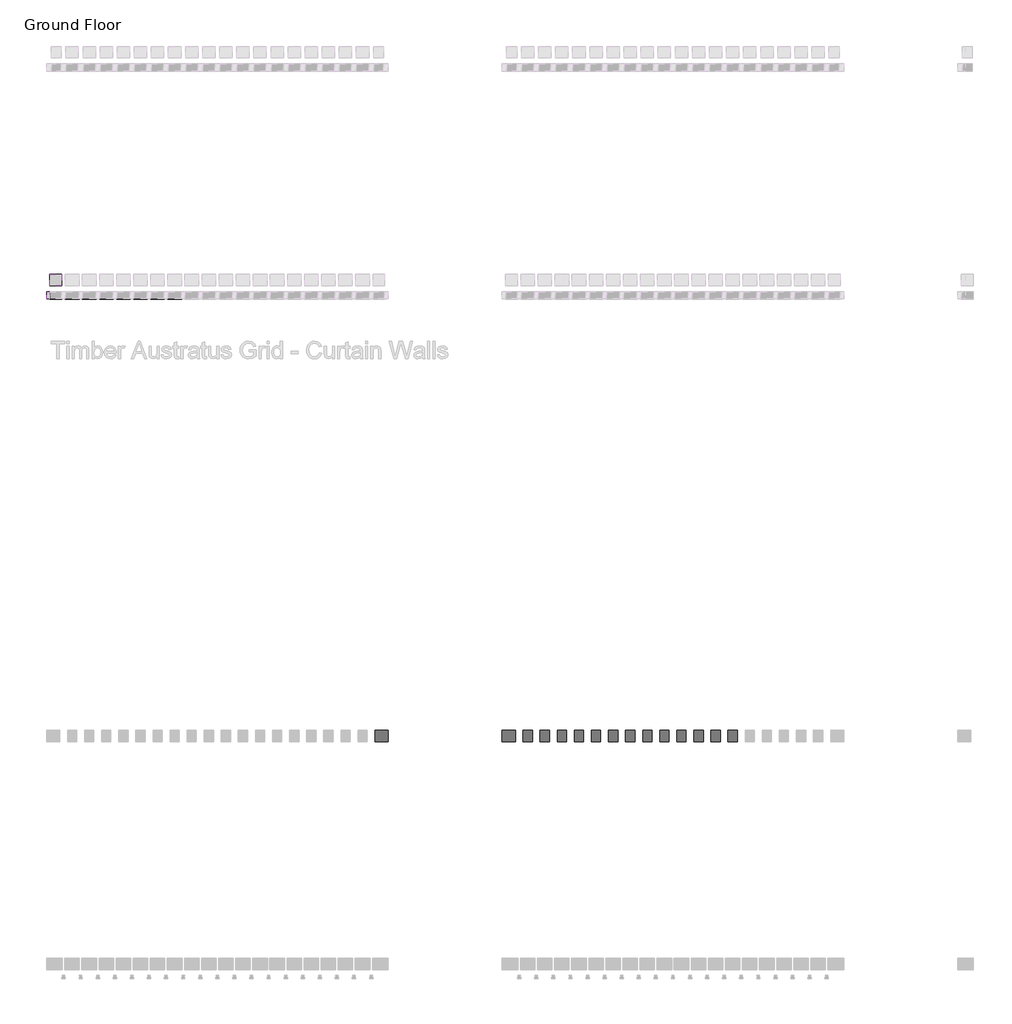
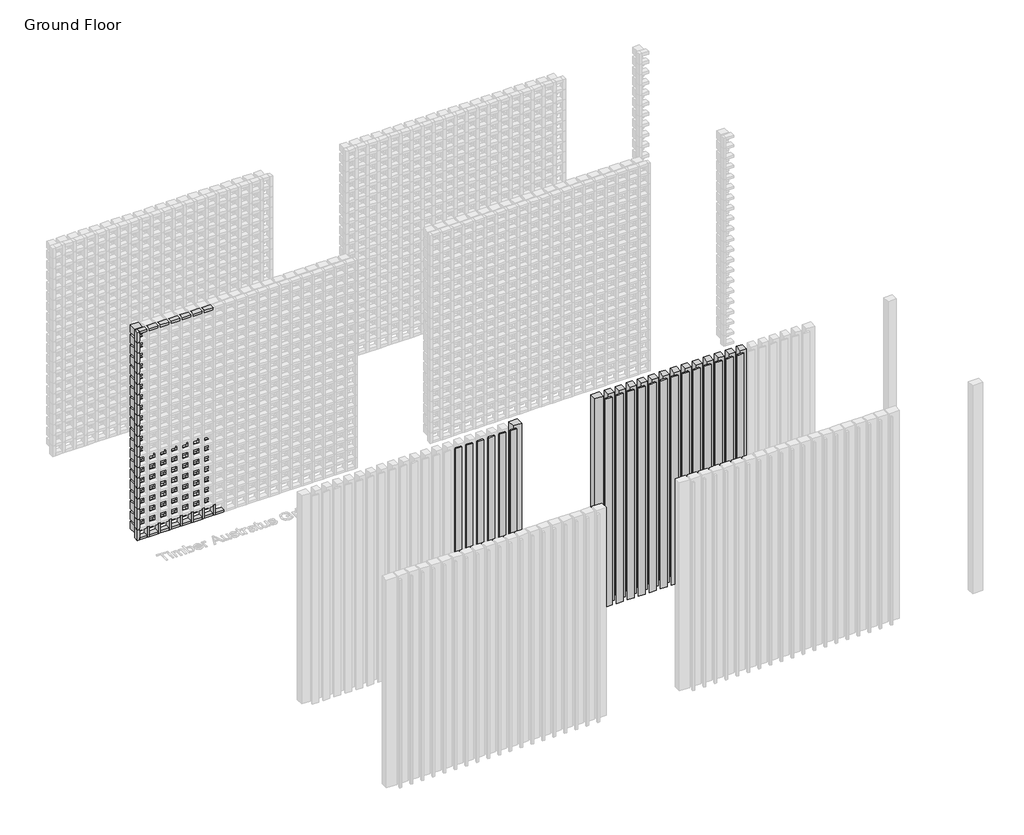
# One storey, part 46 of 350: 77 plates, 61 members.
"""IFC4 building model written with IfcOpenShell, lengths in millimetres."""

from ifc_helpers import new_model, si_unit, origin, place, context, project, spatial, transform, mapped, element, save
from components import rectangular_mullion_d7abbbe3, rectangular_mullion_5b501421, rectangular_mullion_f2fcf417, rectangular_mullion_51467dcc, rectangular_mullion_27b03f3e, rectangular_mullion_d4c9a775, rectangular_mullion_ed01f2b6, empty_system_panel_empty_a57e421f, empty_system_panel_empty_f62c9f60, empty_system_panel_empty_ba5a9e04, empty_system_panel_empty_0065accd, empty_system_panel_empty_2f71b3a5, empty_system_panel_empty_fe50b430, empty_system_panel_empty_7a4fbe29

model = new_model("IFC4")

# Units and contexts
model_context = context("Model", 3, world=origin())
ifc_project = project(units=[si_unit("LENGTHUNIT", "METRE", prefix="MILLI")], contexts=[model_context])

# Site, building, storey
site = spatial("IfcSite", under=ifc_project)
building = spatial("IfcBuilding", under=site)
storey = spatial("IfcBuildingStorey", under=building, Name="Ground Floor", Elevation=0.0)

# Members
placement = place(None, origin())
rectangular_mullion_shape = rectangular_mullion_d7abbbe3(model_context)
element("IfcMember", 1, ObjectType="Rectangular Mullion : Batten_Aluminium_Modinex_Austratus_Linear_Flat_AfricanEbony", at=placement, inside=storey, context=model_context, shape_type="MappedRepresentation", body=[
    mapped(rectangular_mullion_shape, transform((4016.4361642, 34968.2978302, 0.0), x_axis=(1.0, 0.0, 0.0), y_axis=(0.0, -1.0, 0.0), z_axis=(0.0, 0.0, -1.0))),
])
element("IfcMember", 2, ObjectType="Rectangular Mullion : Batten_Aluminium_Modinex_Austratus_Linear_Flat_AfricanEbony", at=placement, inside=storey, context=model_context, shape_type="MappedRepresentation", body=[
    mapped(rectangular_mullion_shape, transform((4166.4361642, 34968.2978302, 0.0), x_axis=(1.0, 0.0, 0.0), y_axis=(0.0, -1.0, 0.0), z_axis=(0.0, 0.0, -1.0))),
])
element("IfcMember", 3, ObjectType="Rectangular Mullion : Batten_Aluminium_Modinex_Austratus_Linear_Flat_AfricanEbony", at=placement, inside=storey, context=model_context, shape_type="MappedRepresentation", body=[
    mapped(rectangular_mullion_shape, transform((4316.4361642, 34968.2978302, 0.0), x_axis=(1.0, 0.0, 0.0), y_axis=(0.0, -1.0, 0.0), z_axis=(0.0, 0.0, -1.0))),
])
element("IfcMember", 4, ObjectType="Rectangular Mullion : Batten_Aluminium_Modinex_Austratus_Linear_Flat_AfricanEbony", at=placement, inside=storey, context=model_context, shape_type="MappedRepresentation", body=[
    mapped(rectangular_mullion_shape, transform((4466.4361642, 34968.2978302, 0.0), x_axis=(1.0, 0.0, 0.0), y_axis=(0.0, -1.0, 0.0), z_axis=(0.0, 0.0, -1.0))),
])
element("IfcMember", 5, ObjectType="Rectangular Mullion : Batten_Aluminium_Modinex_Austratus_Linear_Flat_AfricanEbony", at=placement, inside=storey, context=model_context, shape_type="MappedRepresentation", body=[
    mapped(rectangular_mullion_shape, transform((4616.4361642, 34968.2978302, 0.0), x_axis=(1.0, 0.0, 0.0), y_axis=(0.0, -1.0, 0.0), z_axis=(0.0, 0.0, -1.0))),
])
element("IfcMember", 6, ObjectType="Rectangular Mullion : Batten_Aluminium_Modinex_Austratus_Linear_Flat_AfricanEbony", at=placement, inside=storey, context=model_context, shape_type="MappedRepresentation", body=[
    mapped(rectangular_mullion_shape, transform((4766.4361642, 34968.2978302, 0.0), x_axis=(1.0, 0.0, 0.0), y_axis=(0.0, -1.0, 0.0), z_axis=(0.0, 0.0, -1.0))),
])
element("IfcMember", 7, ObjectType="Rectangular Mullion : Batten_Aluminium_Modinex_Austratus_Linear_Flat_Cedar", at=placement, inside=storey, context=model_context, shape_type="MappedRepresentation", body=[
    mapped(rectangular_mullion_shape, transform((6066.4361642, 34968.2978302, 0.0), x_axis=(1.0, 0.0, 0.0), y_axis=(0.0, -1.0, 0.0), z_axis=(0.0, 0.0, -1.0))),
])
element("IfcMember", 8, ObjectType="Rectangular Mullion : Batten_Aluminium_Modinex_Austratus_Linear_Flat_Cedar", at=placement, inside=storey, context=model_context, shape_type="MappedRepresentation", body=[
    mapped(rectangular_mullion_shape, transform((6216.4361642, 34968.2978302, 0.0), x_axis=(1.0, 0.0, 0.0), y_axis=(0.0, -1.0, 0.0), z_axis=(0.0, 0.0, -1.0))),
])
element("IfcMember", 9, ObjectType="Rectangular Mullion : Batten_Aluminium_Modinex_Austratus_Linear_Flat_Cedar", at=placement, inside=storey, context=model_context, shape_type="MappedRepresentation", body=[
    mapped(rectangular_mullion_shape, transform((6366.4361642, 34968.2978302, 0.0), x_axis=(1.0, 0.0, 0.0), y_axis=(0.0, -1.0, 0.0), z_axis=(0.0, 0.0, -1.0))),
])
element("IfcMember", 10, ObjectType="Rectangular Mullion : Batten_Aluminium_Modinex_Austratus_Linear_Flat_Cedar", at=placement, inside=storey, context=model_context, shape_type="MappedRepresentation", body=[
    mapped(rectangular_mullion_shape, transform((6516.4361642, 34968.2978302, 0.0), x_axis=(1.0, 0.0, 0.0), y_axis=(0.0, -1.0, 0.0), z_axis=(0.0, 0.0, -1.0))),
])
element("IfcMember", 11, ObjectType="Rectangular Mullion : Batten_Aluminium_Modinex_Austratus_Linear_Flat_Cedar", at=placement, inside=storey, context=model_context, shape_type="MappedRepresentation", body=[
    mapped(rectangular_mullion_shape, transform((6666.4361642, 34968.2978302, 0.0), x_axis=(1.0, 0.0, 0.0), y_axis=(0.0, -1.0, 0.0), z_axis=(0.0, 0.0, -1.0))),
])
element("IfcMember", 12, ObjectType="Rectangular Mullion : Batten_Aluminium_Modinex_Austratus_Linear_Flat_Cedar", at=placement, inside=storey, context=model_context, shape_type="MappedRepresentation", body=[
    mapped(rectangular_mullion_shape, transform((6816.4361642, 34968.2978302, 0.0), x_axis=(1.0, 0.0, 0.0), y_axis=(0.0, -1.0, 0.0), z_axis=(0.0, 0.0, -1.0))),
])
element("IfcMember", 13, ObjectType="Rectangular Mullion : Batten_Aluminium_Modinex_Austratus_Linear_Flat_Cedar", at=placement, inside=storey, context=model_context, shape_type="MappedRepresentation", body=[
    mapped(rectangular_mullion_shape, transform((6966.4361642, 34968.2978302, 0.0), x_axis=(1.0, 0.0, 0.0), y_axis=(0.0, -1.0, 0.0), z_axis=(0.0, 0.0, -1.0))),
])
element("IfcMember", 14, ObjectType="Rectangular Mullion : Batten_Aluminium_Modinex_Austratus_Linear_Flat_Cedar", at=placement, inside=storey, context=model_context, shape_type="MappedRepresentation", body=[
    mapped(rectangular_mullion_shape, transform((7116.4361642, 34968.2978302, 0.0), x_axis=(1.0, 0.0, 0.0), y_axis=(0.0, -1.0, 0.0), z_axis=(0.0, 0.0, -1.0))),
])
element("IfcMember", 15, ObjectType="Rectangular Mullion : Batten_Aluminium_Modinex_Austratus_Linear_Flat_Cedar", at=placement, inside=storey, context=model_context, shape_type="MappedRepresentation", body=[
    mapped(rectangular_mullion_shape, transform((7266.4361642, 34968.2978302, 0.0), x_axis=(1.0, 0.0, 0.0), y_axis=(0.0, -1.0, 0.0), z_axis=(0.0, 0.0, -1.0))),
])
element("IfcMember", 16, ObjectType="Rectangular Mullion : Batten_Aluminium_Modinex_Austratus_Linear_Flat_Cedar", at=placement, inside=storey, context=model_context, shape_type="MappedRepresentation", body=[
    mapped(rectangular_mullion_shape, transform((7416.4361642, 34968.2978302, 0.0), x_axis=(1.0, 0.0, 0.0), y_axis=(0.0, -1.0, 0.0), z_axis=(0.0, 0.0, -1.0))),
])
element("IfcMember", 17, ObjectType="Rectangular Mullion : Batten_Aluminium_Modinex_Austratus_Linear_Flat_Cedar", at=placement, inside=storey, context=model_context, shape_type="MappedRepresentation", body=[
    mapped(rectangular_mullion_shape, transform((7566.4361642, 34968.2978302, 0.0), x_axis=(1.0, 0.0, 0.0), y_axis=(0.0, -1.0, 0.0), z_axis=(0.0, 0.0, -1.0))),
])
element("IfcMember", 18, ObjectType="Rectangular Mullion : Batten_Aluminium_Modinex_Austratus_Linear_Flat_Cedar", at=placement, inside=storey, context=model_context, shape_type="MappedRepresentation", body=[
    mapped(rectangular_mullion_shape, transform((7716.4361642, 34968.2978302, 0.0), x_axis=(1.0, 0.0, 0.0), y_axis=(0.0, -1.0, 0.0), z_axis=(0.0, 0.0, -1.0))),
])
element("IfcMember", 19, ObjectType="Rectangular Mullion : Batten_Aluminium_Modinex_Austratus_Linear_Flat_Cedar", at=placement, inside=storey, context=model_context, shape_type="MappedRepresentation", body=[
    mapped(rectangular_mullion_shape, transform((7866.4361642, 34968.2978302, 0.0), x_axis=(1.0, 0.0, 0.0), y_axis=(0.0, -1.0, 0.0), z_axis=(0.0, 0.0, -1.0))),
])
rectangular_mullion_2_shape = rectangular_mullion_5b501421(model_context)
element("IfcMember", 20, ObjectType="Rectangular Mullion : Batten_Timber_Modinex_Austratus_Grid_Fascia_30x65_AlaskanYellowCedar", at=placement, inside=storey, context=model_context, shape_type="MappedRepresentation", body=[
    mapped(rectangular_mullion_2_shape, transform((2066.4361642, 38968.2978302, 0.0), x_axis=(1.0, 0.0, 0.0), y_axis=(0.0, -1.0, 0.0), z_axis=(0.0, 0.0, -1.0))),
])
element("IfcMember", 21, ObjectType="Rectangular Mullion : Batten_Timber_Modinex_Austratus_Grid_Fascia_30x65_AlaskanYellowCedar", at=placement, inside=storey, context=model_context, shape_type="MappedRepresentation", body=[
    mapped(rectangular_mullion_2_shape, transform((2216.4361642, 38968.2978302, 0.0), x_axis=(1.0, 0.0, 0.0), y_axis=(0.0, -1.0, 0.0), z_axis=(0.0, 0.0, -1.0))),
])
element("IfcMember", 22, ObjectType="Rectangular Mullion : Batten_Timber_Modinex_Austratus_Grid_Fascia_30x65_AlaskanYellowCedar", at=placement, inside=storey, context=model_context, shape_type="MappedRepresentation", body=[
    mapped(rectangular_mullion_2_shape, transform((2366.4361642, 38968.2978302, 0.0), x_axis=(1.0, 0.0, 0.0), y_axis=(0.0, -1.0, 0.0), z_axis=(0.0, 0.0, -1.0))),
])
element("IfcMember", 23, ObjectType="Rectangular Mullion : Batten_Timber_Modinex_Austratus_Grid_Fascia_30x65_AlaskanYellowCedar", at=placement, inside=storey, context=model_context, shape_type="MappedRepresentation", body=[
    mapped(rectangular_mullion_2_shape, transform((2516.4361642, 38968.2978302, 0.0), x_axis=(1.0, 0.0, 0.0), y_axis=(0.0, -1.0, 0.0), z_axis=(0.0, 0.0, -1.0))),
])
element("IfcMember", 24, ObjectType="Rectangular Mullion : Batten_Timber_Modinex_Austratus_Grid_Fascia_30x65_AlaskanYellowCedar", at=placement, inside=storey, context=model_context, shape_type="MappedRepresentation", body=[
    mapped(rectangular_mullion_2_shape, transform((2666.4361642, 38968.2978302, 0.0), x_axis=(1.0, 0.0, 0.0), y_axis=(0.0, -1.0, 0.0), z_axis=(0.0, 0.0, -1.0))),
])
element("IfcMember", 25, ObjectType="Rectangular Mullion : Batten_Timber_Modinex_Austratus_Grid_Fascia_30x65_AlaskanYellowCedar", at=placement, inside=storey, context=model_context, shape_type="MappedRepresentation", body=[
    mapped(rectangular_mullion_2_shape, transform((2816.4361642, 38968.2978302, 0.0), x_axis=(1.0, 0.0, 0.0), y_axis=(0.0, -1.0, 0.0), z_axis=(0.0, 0.0, -1.0))),
])
element("IfcMember", 26, ObjectType="Rectangular Mullion : Batten_Timber_Modinex_Austratus_Grid_Fascia_30x65_AlaskanYellowCedar", at=placement, inside=storey, context=model_context, shape_type="MappedRepresentation", body=[
    mapped(rectangular_mullion_2_shape, transform((2966.4361642, 38968.2978302, 0.0), x_axis=(1.0, 0.0, 0.0), y_axis=(0.0, -1.0, 0.0), z_axis=(0.0, 0.0, -1.0))),
])
rectangular_mullion_3_shape = rectangular_mullion_f2fcf417(model_context)
element("IfcMember", 27, ObjectType="Rectangular Mullion : Batten_Timber_Modinex_Austratus_Grid_Fascia_30x65_AlaskanYellowCedar", at=placement, inside=storey, context=model_context, shape_type="MappedRepresentation", body=[
    mapped(rectangular_mullion_3_shape, transform((2051.4361642, 38968.2978302, 3000.0), x_axis=(0.0, 0.0, 1.0), y_axis=(0.0, -1.0, 0.0), z_axis=(1.0, 0.0, 0.0))),
])
rectangular_mullion_4_shape = rectangular_mullion_51467dcc(model_context)
element("IfcMember", 28, ObjectType="Rectangular Mullion : Batten_Timber_Modinex_Austratus_Grid_Fascia_30x65_AlaskanYellowCedar", at=placement, inside=storey, context=model_context, shape_type="MappedRepresentation", body=[
    mapped(rectangular_mullion_4_shape, transform((2201.4361642, 38968.2978302, 3000.0), x_axis=(0.0, 0.0, 1.0), y_axis=(0.0, -1.0, 0.0), z_axis=(1.0, 0.0, 0.0))),
])
element("IfcMember", 29, ObjectType="Rectangular Mullion : Batten_Timber_Modinex_Austratus_Grid_Fascia_30x65_AlaskanYellowCedar", at=placement, inside=storey, context=model_context, shape_type="MappedRepresentation", body=[
    mapped(rectangular_mullion_4_shape, transform((2351.4361642, 38968.2978302, 3000.0), x_axis=(0.0, 0.0, 1.0), y_axis=(0.0, -1.0, 0.0), z_axis=(1.0, 0.0, 0.0))),
])
element("IfcMember", 30, ObjectType="Rectangular Mullion : Batten_Timber_Modinex_Austratus_Grid_Fascia_30x65_AlaskanYellowCedar", at=placement, inside=storey, context=model_context, shape_type="MappedRepresentation", body=[
    mapped(rectangular_mullion_4_shape, transform((2501.4361642, 38968.2978302, 3000.0), x_axis=(0.0, 0.0, 1.0), y_axis=(0.0, -1.0, 0.0), z_axis=(1.0, 0.0, 0.0))),
])
element("IfcMember", 31, ObjectType="Rectangular Mullion : Batten_Timber_Modinex_Austratus_Grid_Fascia_30x65_AlaskanYellowCedar", at=placement, inside=storey, context=model_context, shape_type="MappedRepresentation", body=[
    mapped(rectangular_mullion_4_shape, transform((2651.4361642, 38968.2978302, 3000.0), x_axis=(0.0, 0.0, 1.0), y_axis=(0.0, -1.0, 0.0), z_axis=(1.0, 0.0, 0.0))),
])
element("IfcMember", 32, ObjectType="Rectangular Mullion : Batten_Timber_Modinex_Austratus_Grid_Fascia_30x65_AlaskanYellowCedar", at=placement, inside=storey, context=model_context, shape_type="MappedRepresentation", body=[
    mapped(rectangular_mullion_4_shape, transform((2801.4361642, 38968.2978302, 3000.0), x_axis=(0.0, 0.0, 1.0), y_axis=(0.0, -1.0, 0.0), z_axis=(1.0, 0.0, 0.0))),
])
element("IfcMember", 33, ObjectType="Rectangular Mullion : Batten_Timber_Modinex_Austratus_Grid_Fascia_30x65_AlaskanYellowCedar", at=placement, inside=storey, context=model_context, shape_type="MappedRepresentation", body=[
    mapped(rectangular_mullion_4_shape, transform((2951.4361642, 38968.2978302, 3000.0), x_axis=(0.0, 0.0, 1.0), y_axis=(0.0, -1.0, 0.0), z_axis=(1.0, 0.0, 0.0))),
])
rectangular_mullion_5_shape = rectangular_mullion_27b03f3e(model_context)
element("IfcMember", 34, ObjectType="Rectangular Mullion : Batten_Timber_Modinex_Austratus_Grid_Fascia_30x65_AlaskanYellowCedar", at=placement, inside=storey, context=model_context, shape_type="MappedRepresentation", body=[
    mapped(rectangular_mullion_5_shape, transform((1946.4361639, 38968.2978302, 0.0), x_axis=(0.0, 0.0, -1.0), y_axis=(0.0, -1.0, 0.0), z_axis=(-1.0, 0.0, 0.0))),
])
rectangular_mullion_6_shape = rectangular_mullion_d4c9a775(model_context)
element("IfcMember", 35, ObjectType="Rectangular Mullion : Batten_Timber_Modinex_Austratus_Grid_Fascia_30x65_AlaskanYellowCedar", at=placement, inside=storey, context=model_context, shape_type="MappedRepresentation", body=[
    mapped(rectangular_mullion_6_shape, transform((2081.4361642, 38968.2978302, 0.0), x_axis=(0.0, 0.0, -1.0), y_axis=(0.0, -1.0, 0.0), z_axis=(-1.0, 0.0, 0.0))),
])
element("IfcMember", 36, ObjectType="Rectangular Mullion : Batten_Timber_Modinex_Austratus_Grid_Fascia_30x65_AlaskanYellowCedar", at=placement, inside=storey, context=model_context, shape_type="MappedRepresentation", body=[
    mapped(rectangular_mullion_6_shape, transform((2231.4361642, 38968.2978302, 0.0), x_axis=(0.0, 0.0, -1.0), y_axis=(0.0, -1.0, 0.0), z_axis=(-1.0, 0.0, 0.0))),
])
element("IfcMember", 37, ObjectType="Rectangular Mullion : Batten_Timber_Modinex_Austratus_Grid_Fascia_30x65_AlaskanYellowCedar", at=placement, inside=storey, context=model_context, shape_type="MappedRepresentation", body=[
    mapped(rectangular_mullion_6_shape, transform((2381.4361642, 38968.2978302, 0.0), x_axis=(0.0, 0.0, -1.0), y_axis=(0.0, -1.0, 0.0), z_axis=(-1.0, 0.0, 0.0))),
])
element("IfcMember", 38, ObjectType="Rectangular Mullion : Batten_Timber_Modinex_Austratus_Grid_Fascia_30x65_AlaskanYellowCedar", at=placement, inside=storey, context=model_context, shape_type="MappedRepresentation", body=[
    mapped(rectangular_mullion_6_shape, transform((2531.4361642, 38968.2978302, 0.0), x_axis=(0.0, 0.0, -1.0), y_axis=(0.0, -1.0, 0.0), z_axis=(-1.0, 0.0, 0.0))),
])
element("IfcMember", 39, ObjectType="Rectangular Mullion : Batten_Timber_Modinex_Austratus_Grid_Fascia_30x65_AlaskanYellowCedar", at=placement, inside=storey, context=model_context, shape_type="MappedRepresentation", body=[
    mapped(rectangular_mullion_6_shape, transform((2681.4361642, 38968.2978302, 0.0), x_axis=(0.0, 0.0, -1.0), y_axis=(0.0, -1.0, 0.0), z_axis=(-1.0, 0.0, 0.0))),
])
element("IfcMember", 40, ObjectType="Rectangular Mullion : Batten_Timber_Modinex_Austratus_Grid_Fascia_30x65_AlaskanYellowCedar", at=placement, inside=storey, context=model_context, shape_type="MappedRepresentation", body=[
    mapped(rectangular_mullion_6_shape, transform((2831.4361642, 38968.2978302, 0.0), x_axis=(0.0, 0.0, -1.0), y_axis=(0.0, -1.0, 0.0), z_axis=(-1.0, 0.0, 0.0))),
])
element("IfcMember", 41, ObjectType="Rectangular Mullion : Batten_Timber_Modinex_Austratus_Grid_Fascia_30x65_AlaskanYellowCedar", at=placement, inside=storey, context=model_context, shape_type="MappedRepresentation", body=[
    mapped(rectangular_mullion_6_shape, transform((2981.4361642, 38968.2978302, 0.0), x_axis=(0.0, 0.0, -1.0), y_axis=(0.0, -1.0, 0.0), z_axis=(-1.0, 0.0, 0.0))),
])
rectangular_mullion_7_shape = rectangular_mullion_ed01f2b6(model_context)
element("IfcMember", 42, ObjectType="Rectangular Mullion : Batten_Timber_Modinex_Austratus_Grid_Fascia_30x65_AlaskanYellowCedar", at=placement, inside=storey, context=model_context, shape_type="MappedRepresentation", body=[
    mapped(rectangular_mullion_7_shape, transform((1916.4361639, 38968.2978302, 3000.0), x_axis=(-1.0, 0.0, 0.0), y_axis=(0.0, -1.0, 0.0), z_axis=(0.0, 0.0, 1.0))),
])
element("IfcMember", 43, ObjectType="Rectangular Mullion : Batten_Timber_Modinex_Austratus_Grid_Fascia_30x65_AlaskanYellowCedar", at=placement, inside=storey, context=model_context, shape_type="MappedRepresentation", body=[
    mapped(rectangular_mullion_7_shape, transform((1916.4361639, 38968.2978302, 150.0), x_axis=(-1.0, 0.0, 0.0), y_axis=(0.0, -1.0, 0.0), z_axis=(0.0, 0.0, 1.0))),
])
element("IfcMember", 44, ObjectType="Rectangular Mullion : Batten_Timber_Modinex_Austratus_Grid_Fascia_30x65_AlaskanYellowCedar", at=placement, inside=storey, context=model_context, shape_type="MappedRepresentation", body=[
    mapped(rectangular_mullion_7_shape, transform((1916.4361639, 38968.2978302, 300.0), x_axis=(-1.0, 0.0, 0.0), y_axis=(0.0, -1.0, 0.0), z_axis=(0.0, 0.0, 1.0))),
])
element("IfcMember", 45, ObjectType="Rectangular Mullion : Batten_Timber_Modinex_Austratus_Grid_Fascia_30x65_AlaskanYellowCedar", at=placement, inside=storey, context=model_context, shape_type="MappedRepresentation", body=[
    mapped(rectangular_mullion_7_shape, transform((1916.4361639, 38968.2978302, 450.0), x_axis=(-1.0, 0.0, 0.0), y_axis=(0.0, -1.0, 0.0), z_axis=(0.0, 0.0, 1.0))),
])
element("IfcMember", 46, ObjectType="Rectangular Mullion : Batten_Timber_Modinex_Austratus_Grid_Fascia_30x65_AlaskanYellowCedar", at=placement, inside=storey, context=model_context, shape_type="MappedRepresentation", body=[
    mapped(rectangular_mullion_7_shape, transform((1916.4361639, 38968.2978302, 600.0), x_axis=(-1.0, 0.0, 0.0), y_axis=(0.0, -1.0, 0.0), z_axis=(0.0, 0.0, 1.0))),
])
element("IfcMember", 47, ObjectType="Rectangular Mullion : Batten_Timber_Modinex_Austratus_Grid_Fascia_30x65_AlaskanYellowCedar", at=placement, inside=storey, context=model_context, shape_type="MappedRepresentation", body=[
    mapped(rectangular_mullion_7_shape, transform((1916.4361639, 38968.2978302, 750.0), x_axis=(-1.0, 0.0, 0.0), y_axis=(0.0, -1.0, 0.0), z_axis=(0.0, 0.0, 1.0))),
])
element("IfcMember", 48, ObjectType="Rectangular Mullion : Batten_Timber_Modinex_Austratus_Grid_Fascia_30x65_AlaskanYellowCedar", at=placement, inside=storey, context=model_context, shape_type="MappedRepresentation", body=[
    mapped(rectangular_mullion_7_shape, transform((1916.4361639, 38968.2978302, 900.0), x_axis=(-1.0, 0.0, 0.0), y_axis=(0.0, -1.0, 0.0), z_axis=(0.0, 0.0, 1.0))),
])
element("IfcMember", 49, ObjectType="Rectangular Mullion : Batten_Timber_Modinex_Austratus_Grid_Fascia_30x65_AlaskanYellowCedar", at=placement, inside=storey, context=model_context, shape_type="MappedRepresentation", body=[
    mapped(rectangular_mullion_7_shape, transform((1916.4361639, 38968.2978302, 1050.0), x_axis=(-1.0, 0.0, 0.0), y_axis=(0.0, -1.0, 0.0), z_axis=(0.0, 0.0, 1.0))),
])
element("IfcMember", 50, ObjectType="Rectangular Mullion : Batten_Timber_Modinex_Austratus_Grid_Fascia_30x65_AlaskanYellowCedar", at=placement, inside=storey, context=model_context, shape_type="MappedRepresentation", body=[
    mapped(rectangular_mullion_7_shape, transform((1916.4361639, 38968.2978302, 1200.0), x_axis=(-1.0, 0.0, 0.0), y_axis=(0.0, -1.0, 0.0), z_axis=(0.0, 0.0, 1.0))),
])
element("IfcMember", 51, ObjectType="Rectangular Mullion : Batten_Timber_Modinex_Austratus_Grid_Fascia_30x65_AlaskanYellowCedar", at=placement, inside=storey, context=model_context, shape_type="MappedRepresentation", body=[
    mapped(rectangular_mullion_7_shape, transform((1916.4361639, 38968.2978302, 1350.0), x_axis=(-1.0, 0.0, 0.0), y_axis=(0.0, -1.0, 0.0), z_axis=(0.0, 0.0, 1.0))),
])
element("IfcMember", 52, ObjectType="Rectangular Mullion : Batten_Timber_Modinex_Austratus_Grid_Fascia_30x65_AlaskanYellowCedar", at=placement, inside=storey, context=model_context, shape_type="MappedRepresentation", body=[
    mapped(rectangular_mullion_7_shape, transform((1916.4361639, 38968.2978302, 1500.0), x_axis=(-1.0, 0.0, 0.0), y_axis=(0.0, -1.0, 0.0), z_axis=(0.0, 0.0, 1.0))),
])
element("IfcMember", 53, ObjectType="Rectangular Mullion : Batten_Timber_Modinex_Austratus_Grid_Fascia_30x65_AlaskanYellowCedar", at=placement, inside=storey, context=model_context, shape_type="MappedRepresentation", body=[
    mapped(rectangular_mullion_7_shape, transform((1916.4361639, 38968.2978302, 1650.0), x_axis=(-1.0, 0.0, 0.0), y_axis=(0.0, -1.0, 0.0), z_axis=(0.0, 0.0, 1.0))),
])
element("IfcMember", 54, ObjectType="Rectangular Mullion : Batten_Timber_Modinex_Austratus_Grid_Fascia_30x65_AlaskanYellowCedar", at=placement, inside=storey, context=model_context, shape_type="MappedRepresentation", body=[
    mapped(rectangular_mullion_7_shape, transform((1916.4361639, 38968.2978302, 1800.0), x_axis=(-1.0, 0.0, 0.0), y_axis=(0.0, -1.0, 0.0), z_axis=(0.0, 0.0, 1.0))),
])
element("IfcMember", 55, ObjectType="Rectangular Mullion : Batten_Timber_Modinex_Austratus_Grid_Fascia_30x65_AlaskanYellowCedar", at=placement, inside=storey, context=model_context, shape_type="MappedRepresentation", body=[
    mapped(rectangular_mullion_7_shape, transform((1916.4361639, 38968.2978302, 1950.0), x_axis=(-1.0, 0.0, 0.0), y_axis=(0.0, -1.0, 0.0), z_axis=(0.0, 0.0, 1.0))),
])
element("IfcMember", 56, ObjectType="Rectangular Mullion : Batten_Timber_Modinex_Austratus_Grid_Fascia_30x65_AlaskanYellowCedar", at=placement, inside=storey, context=model_context, shape_type="MappedRepresentation", body=[
    mapped(rectangular_mullion_7_shape, transform((1916.4361639, 38968.2978302, 2100.0), x_axis=(-1.0, 0.0, 0.0), y_axis=(0.0, -1.0, 0.0), z_axis=(0.0, 0.0, 1.0))),
])
element("IfcMember", 57, ObjectType="Rectangular Mullion : Batten_Timber_Modinex_Austratus_Grid_Fascia_30x65_AlaskanYellowCedar", at=placement, inside=storey, context=model_context, shape_type="MappedRepresentation", body=[
    mapped(rectangular_mullion_7_shape, transform((1916.4361639, 38968.2978302, 2250.0), x_axis=(-1.0, 0.0, 0.0), y_axis=(0.0, -1.0, 0.0), z_axis=(0.0, 0.0, 1.0))),
])
element("IfcMember", 58, ObjectType="Rectangular Mullion : Batten_Timber_Modinex_Austratus_Grid_Fascia_30x65_AlaskanYellowCedar", at=placement, inside=storey, context=model_context, shape_type="MappedRepresentation", body=[
    mapped(rectangular_mullion_7_shape, transform((1916.4361639, 38968.2978302, 2400.0), x_axis=(-1.0, 0.0, 0.0), y_axis=(0.0, -1.0, 0.0), z_axis=(0.0, 0.0, 1.0))),
])
element("IfcMember", 59, ObjectType="Rectangular Mullion : Batten_Timber_Modinex_Austratus_Grid_Fascia_30x65_AlaskanYellowCedar", at=placement, inside=storey, context=model_context, shape_type="MappedRepresentation", body=[
    mapped(rectangular_mullion_7_shape, transform((1916.4361639, 38968.2978302, 2550.0), x_axis=(-1.0, 0.0, 0.0), y_axis=(0.0, -1.0, 0.0), z_axis=(0.0, 0.0, 1.0))),
])
element("IfcMember", 60, ObjectType="Rectangular Mullion : Batten_Timber_Modinex_Austratus_Grid_Fascia_30x65_AlaskanYellowCedar", at=placement, inside=storey, context=model_context, shape_type="MappedRepresentation", body=[
    mapped(rectangular_mullion_7_shape, transform((1916.4361639, 38968.2978302, 2700.0), x_axis=(-1.0, 0.0, 0.0), y_axis=(0.0, -1.0, 0.0), z_axis=(0.0, 0.0, 1.0))),
])
element("IfcMember", 61, ObjectType="Rectangular Mullion : Batten_Timber_Modinex_Austratus_Grid_Fascia_30x65_AlaskanYellowCedar", at=placement, inside=storey, context=model_context, shape_type="MappedRepresentation", body=[
    mapped(rectangular_mullion_7_shape, transform((1916.4361639, 38968.2978302, 2850.0), x_axis=(-1.0, 0.0, 0.0), y_axis=(0.0, -1.0, 0.0), z_axis=(0.0, 0.0, 1.0))),
])

# Plates
empty_system_panel_empty_shape = empty_system_panel_empty_a57e421f(model_context)
element("IfcPlate", 62, ObjectType="Empty System Panel : Empty", at=placement, inside=storey, context=model_context, shape_type="MappedRepresentation", body=[
    mapped(empty_system_panel_empty_shape, transform((2141.4361642, 38968.2978302, 165.0), x_axis=(1.0, 0.0, 0.0), y_axis=(0.0, 1.0, 0.0), z_axis=(0.0, 0.0, 1.0))),
])
element("IfcPlate", 63, ObjectType="Empty System Panel : Empty", at=placement, inside=storey, context=model_context, shape_type="MappedRepresentation", body=[
    mapped(empty_system_panel_empty_shape, transform((2291.4361642, 38968.2978302, 165.0), x_axis=(1.0, 0.0, 0.0), y_axis=(0.0, 1.0, 0.0), z_axis=(0.0, 0.0, 1.0))),
])
element("IfcPlate", 64, ObjectType="Empty System Panel : Empty", at=placement, inside=storey, context=model_context, shape_type="MappedRepresentation", body=[
    mapped(empty_system_panel_empty_shape, transform((2441.4361642, 38968.2978302, 165.0), x_axis=(1.0, 0.0, 0.0), y_axis=(0.0, 1.0, 0.0), z_axis=(0.0, 0.0, 1.0))),
])
element("IfcPlate", 65, ObjectType="Empty System Panel : Empty", at=placement, inside=storey, context=model_context, shape_type="MappedRepresentation", body=[
    mapped(empty_system_panel_empty_shape, transform((2591.4361642, 38968.2978302, 165.0), x_axis=(1.0, 0.0, 0.0), y_axis=(0.0, 1.0, 0.0), z_axis=(0.0, 0.0, 1.0))),
])
element("IfcPlate", 66, ObjectType="Empty System Panel : Empty", at=placement, inside=storey, context=model_context, shape_type="MappedRepresentation", body=[
    mapped(empty_system_panel_empty_shape, transform((2741.4361642, 38968.2978302, 165.0), x_axis=(1.0, 0.0, 0.0), y_axis=(0.0, 1.0, 0.0), z_axis=(0.0, 0.0, 1.0))),
])
element("IfcPlate", 67, ObjectType="Empty System Panel : Empty", at=placement, inside=storey, context=model_context, shape_type="MappedRepresentation", body=[
    mapped(empty_system_panel_empty_shape, transform((2891.4361642, 38968.2978302, 165.0), x_axis=(1.0, 0.0, 0.0), y_axis=(0.0, 1.0, 0.0), z_axis=(0.0, 0.0, 1.0))),
])
element("IfcPlate", 68, ObjectType="Empty System Panel : Empty", at=placement, inside=storey, context=model_context, shape_type="MappedRepresentation", body=[
    mapped(empty_system_panel_empty_shape, transform((2141.4361642, 38968.2978302, 315.0), x_axis=(1.0, 0.0, 0.0), y_axis=(0.0, 1.0, 0.0), z_axis=(0.0, 0.0, 1.0))),
])
element("IfcPlate", 69, ObjectType="Empty System Panel : Empty", at=placement, inside=storey, context=model_context, shape_type="MappedRepresentation", body=[
    mapped(empty_system_panel_empty_shape, transform((2291.4361642, 38968.2978302, 315.0), x_axis=(1.0, 0.0, 0.0), y_axis=(0.0, 1.0, 0.0), z_axis=(0.0, 0.0, 1.0))),
])
element("IfcPlate", 70, ObjectType="Empty System Panel : Empty", at=placement, inside=storey, context=model_context, shape_type="MappedRepresentation", body=[
    mapped(empty_system_panel_empty_shape, transform((2441.4361642, 38968.2978302, 315.0), x_axis=(1.0, 0.0, 0.0), y_axis=(0.0, 1.0, 0.0), z_axis=(0.0, 0.0, 1.0))),
])
element("IfcPlate", 71, ObjectType="Empty System Panel : Empty", at=placement, inside=storey, context=model_context, shape_type="MappedRepresentation", body=[
    mapped(empty_system_panel_empty_shape, transform((2591.4361642, 38968.2978302, 315.0), x_axis=(1.0, 0.0, 0.0), y_axis=(0.0, 1.0, 0.0), z_axis=(0.0, 0.0, 1.0))),
])
element("IfcPlate", 72, ObjectType="Empty System Panel : Empty", at=placement, inside=storey, context=model_context, shape_type="MappedRepresentation", body=[
    mapped(empty_system_panel_empty_shape, transform((2741.4361642, 38968.2978302, 315.0), x_axis=(1.0, 0.0, 0.0), y_axis=(0.0, 1.0, 0.0), z_axis=(0.0, 0.0, 1.0))),
])
element("IfcPlate", 73, ObjectType="Empty System Panel : Empty", at=placement, inside=storey, context=model_context, shape_type="MappedRepresentation", body=[
    mapped(empty_system_panel_empty_shape, transform((2891.4361642, 38968.2978302, 315.0), x_axis=(1.0, 0.0, 0.0), y_axis=(0.0, 1.0, 0.0), z_axis=(0.0, 0.0, 1.0))),
])
element("IfcPlate", 74, ObjectType="Empty System Panel : Empty", at=placement, inside=storey, context=model_context, shape_type="MappedRepresentation", body=[
    mapped(empty_system_panel_empty_shape, transform((2141.4361642, 38968.2978302, 465.0), x_axis=(1.0, 0.0, 0.0), y_axis=(0.0, 1.0, 0.0), z_axis=(0.0, 0.0, 1.0))),
])
element("IfcPlate", 75, ObjectType="Empty System Panel : Empty", at=placement, inside=storey, context=model_context, shape_type="MappedRepresentation", body=[
    mapped(empty_system_panel_empty_shape, transform((2291.4361642, 38968.2978302, 465.0), x_axis=(1.0, 0.0, 0.0), y_axis=(0.0, 1.0, 0.0), z_axis=(0.0, 0.0, 1.0))),
])
element("IfcPlate", 76, ObjectType="Empty System Panel : Empty", at=placement, inside=storey, context=model_context, shape_type="MappedRepresentation", body=[
    mapped(empty_system_panel_empty_shape, transform((2441.4361642, 38968.2978302, 465.0), x_axis=(1.0, 0.0, 0.0), y_axis=(0.0, 1.0, 0.0), z_axis=(0.0, 0.0, 1.0))),
])
element("IfcPlate", 77, ObjectType="Empty System Panel : Empty", at=placement, inside=storey, context=model_context, shape_type="MappedRepresentation", body=[
    mapped(empty_system_panel_empty_shape, transform((2591.4361642, 38968.2978302, 465.0), x_axis=(1.0, 0.0, 0.0), y_axis=(0.0, 1.0, 0.0), z_axis=(0.0, 0.0, 1.0))),
])
element("IfcPlate", 78, ObjectType="Empty System Panel : Empty", at=placement, inside=storey, context=model_context, shape_type="MappedRepresentation", body=[
    mapped(empty_system_panel_empty_shape, transform((2741.4361642, 38968.2978302, 465.0), x_axis=(1.0, 0.0, 0.0), y_axis=(0.0, 1.0, 0.0), z_axis=(0.0, 0.0, 1.0))),
])
element("IfcPlate", 79, ObjectType="Empty System Panel : Empty", at=placement, inside=storey, context=model_context, shape_type="MappedRepresentation", body=[
    mapped(empty_system_panel_empty_shape, transform((2891.4361642, 38968.2978302, 465.0), x_axis=(1.0, 0.0, 0.0), y_axis=(0.0, 1.0, 0.0), z_axis=(0.0, 0.0, 1.0))),
])
element("IfcPlate", 80, ObjectType="Empty System Panel : Empty", at=placement, inside=storey, context=model_context, shape_type="MappedRepresentation", body=[
    mapped(empty_system_panel_empty_shape, transform((2141.4361642, 38968.2978302, 615.0), x_axis=(1.0, 0.0, 0.0), y_axis=(0.0, 1.0, 0.0), z_axis=(0.0, 0.0, 1.0))),
])
element("IfcPlate", 81, ObjectType="Empty System Panel : Empty", at=placement, inside=storey, context=model_context, shape_type="MappedRepresentation", body=[
    mapped(empty_system_panel_empty_shape, transform((2291.4361642, 38968.2978302, 615.0), x_axis=(1.0, 0.0, 0.0), y_axis=(0.0, 1.0, 0.0), z_axis=(0.0, 0.0, 1.0))),
])
element("IfcPlate", 82, ObjectType="Empty System Panel : Empty", at=placement, inside=storey, context=model_context, shape_type="MappedRepresentation", body=[
    mapped(empty_system_panel_empty_shape, transform((2441.4361642, 38968.2978302, 615.0), x_axis=(1.0, 0.0, 0.0), y_axis=(0.0, 1.0, 0.0), z_axis=(0.0, 0.0, 1.0))),
])
element("IfcPlate", 83, ObjectType="Empty System Panel : Empty", at=placement, inside=storey, context=model_context, shape_type="MappedRepresentation", body=[
    mapped(empty_system_panel_empty_shape, transform((2591.4361642, 38968.2978302, 615.0), x_axis=(1.0, 0.0, 0.0), y_axis=(0.0, 1.0, 0.0), z_axis=(0.0, 0.0, 1.0))),
])
element("IfcPlate", 84, ObjectType="Empty System Panel : Empty", at=placement, inside=storey, context=model_context, shape_type="MappedRepresentation", body=[
    mapped(empty_system_panel_empty_shape, transform((2741.4361642, 38968.2978302, 615.0), x_axis=(1.0, 0.0, 0.0), y_axis=(0.0, 1.0, 0.0), z_axis=(0.0, 0.0, 1.0))),
])
element("IfcPlate", 85, ObjectType="Empty System Panel : Empty", at=placement, inside=storey, context=model_context, shape_type="MappedRepresentation", body=[
    mapped(empty_system_panel_empty_shape, transform((2891.4361642, 38968.2978302, 615.0), x_axis=(1.0, 0.0, 0.0), y_axis=(0.0, 1.0, 0.0), z_axis=(0.0, 0.0, 1.0))),
])
element("IfcPlate", 86, ObjectType="Empty System Panel : Empty", at=placement, inside=storey, context=model_context, shape_type="MappedRepresentation", body=[
    mapped(empty_system_panel_empty_shape, transform((2141.4361642, 38968.2978302, 765.0), x_axis=(1.0, 0.0, 0.0), y_axis=(0.0, 1.0, 0.0), z_axis=(0.0, 0.0, 1.0))),
])
element("IfcPlate", 87, ObjectType="Empty System Panel : Empty", at=placement, inside=storey, context=model_context, shape_type="MappedRepresentation", body=[
    mapped(empty_system_panel_empty_shape, transform((2291.4361642, 38968.2978302, 765.0), x_axis=(1.0, 0.0, 0.0), y_axis=(0.0, 1.0, 0.0), z_axis=(0.0, 0.0, 1.0))),
])
element("IfcPlate", 88, ObjectType="Empty System Panel : Empty", at=placement, inside=storey, context=model_context, shape_type="MappedRepresentation", body=[
    mapped(empty_system_panel_empty_shape, transform((2441.4361642, 38968.2978302, 765.0), x_axis=(1.0, 0.0, 0.0), y_axis=(0.0, 1.0, 0.0), z_axis=(0.0, 0.0, 1.0))),
])
element("IfcPlate", 89, ObjectType="Empty System Panel : Empty", at=placement, inside=storey, context=model_context, shape_type="MappedRepresentation", body=[
    mapped(empty_system_panel_empty_shape, transform((2591.4361642, 38968.2978302, 765.0), x_axis=(1.0, 0.0, 0.0), y_axis=(0.0, 1.0, 0.0), z_axis=(0.0, 0.0, 1.0))),
])
element("IfcPlate", 90, ObjectType="Empty System Panel : Empty", at=placement, inside=storey, context=model_context, shape_type="MappedRepresentation", body=[
    mapped(empty_system_panel_empty_shape, transform((2741.4361642, 38968.2978302, 765.0), x_axis=(1.0, 0.0, 0.0), y_axis=(0.0, 1.0, 0.0), z_axis=(0.0, 0.0, 1.0))),
])
element("IfcPlate", 91, ObjectType="Empty System Panel : Empty", at=placement, inside=storey, context=model_context, shape_type="MappedRepresentation", body=[
    mapped(empty_system_panel_empty_shape, transform((2891.4361642, 38968.2978302, 765.0), x_axis=(1.0, 0.0, 0.0), y_axis=(0.0, 1.0, 0.0), z_axis=(0.0, 0.0, 1.0))),
])
element("IfcPlate", 92, ObjectType="Empty System Panel : Empty", at=placement, inside=storey, context=model_context, shape_type="MappedRepresentation", body=[
    mapped(empty_system_panel_empty_shape, transform((2141.4361642, 38968.2978302, 915.0), x_axis=(1.0, 0.0, 0.0), y_axis=(0.0, 1.0, 0.0), z_axis=(0.0, 0.0, 1.0))),
])
element("IfcPlate", 93, ObjectType="Empty System Panel : Empty", at=placement, inside=storey, context=model_context, shape_type="MappedRepresentation", body=[
    mapped(empty_system_panel_empty_shape, transform((2291.4361642, 38968.2978302, 915.0), x_axis=(1.0, 0.0, 0.0), y_axis=(0.0, 1.0, 0.0), z_axis=(0.0, 0.0, 1.0))),
])
element("IfcPlate", 94, ObjectType="Empty System Panel : Empty", at=placement, inside=storey, context=model_context, shape_type="MappedRepresentation", body=[
    mapped(empty_system_panel_empty_shape, transform((2441.4361642, 38968.2978302, 915.0), x_axis=(1.0, 0.0, 0.0), y_axis=(0.0, 1.0, 0.0), z_axis=(0.0, 0.0, 1.0))),
])
element("IfcPlate", 95, ObjectType="Empty System Panel : Empty", at=placement, inside=storey, context=model_context, shape_type="MappedRepresentation", body=[
    mapped(empty_system_panel_empty_shape, transform((2591.4361642, 38968.2978302, 915.0), x_axis=(1.0, 0.0, 0.0), y_axis=(0.0, 1.0, 0.0), z_axis=(0.0, 0.0, 1.0))),
])
element("IfcPlate", 96, ObjectType="Empty System Panel : Empty", at=placement, inside=storey, context=model_context, shape_type="MappedRepresentation", body=[
    mapped(empty_system_panel_empty_shape, transform((2741.4361642, 38968.2978302, 915.0), x_axis=(1.0, 0.0, 0.0), y_axis=(0.0, 1.0, 0.0), z_axis=(0.0, 0.0, 1.0))),
])
element("IfcPlate", 97, ObjectType="Empty System Panel : Empty", at=placement, inside=storey, context=model_context, shape_type="MappedRepresentation", body=[
    mapped(empty_system_panel_empty_shape, transform((2891.4361642, 38968.2978302, 915.0), x_axis=(1.0, 0.0, 0.0), y_axis=(0.0, 1.0, 0.0), z_axis=(0.0, 0.0, 1.0))),
])
empty_system_panel_empty_2_shape = empty_system_panel_empty_f62c9f60(model_context)
element("IfcPlate", 98, ObjectType="Empty System Panel : Empty", at=placement, inside=storey, context=model_context, shape_type="MappedRepresentation", body=[
    mapped(empty_system_panel_empty_2_shape, transform((5974.2310401, 34968.2978302, 0.0), x_axis=(1.0, 0.0, 0.0), y_axis=(0.0, 1.0, 0.0), z_axis=(0.0, 0.0, 1.0))),
])
empty_system_panel_empty_3_shape = empty_system_panel_empty_ba5a9e04(model_context)
element("IfcPlate", 99, ObjectType="Empty System Panel : Empty", at=placement, inside=storey, context=model_context, shape_type="MappedRepresentation", body=[
    mapped(empty_system_panel_empty_3_shape, transform((6141.4361642, 34968.2978302, 0.0), x_axis=(1.0, 0.0, 0.0), y_axis=(0.0, 1.0, 0.0), z_axis=(0.0, 0.0, 1.0))),
])
element("IfcPlate", 100, ObjectType="Empty System Panel : Empty", at=placement, inside=storey, context=model_context, shape_type="MappedRepresentation", body=[
    mapped(empty_system_panel_empty_3_shape, transform((6291.4361642, 34968.2978302, 0.0), x_axis=(1.0, 0.0, 0.0), y_axis=(0.0, 1.0, 0.0), z_axis=(0.0, 0.0, 1.0))),
])
element("IfcPlate", 101, ObjectType="Empty System Panel : Empty", at=placement, inside=storey, context=model_context, shape_type="MappedRepresentation", body=[
    mapped(empty_system_panel_empty_3_shape, transform((6441.4361642, 34968.2978302, 0.0), x_axis=(1.0, 0.0, 0.0), y_axis=(0.0, 1.0, 0.0), z_axis=(0.0, 0.0, 1.0))),
])
element("IfcPlate", 102, ObjectType="Empty System Panel : Empty", at=placement, inside=storey, context=model_context, shape_type="MappedRepresentation", body=[
    mapped(empty_system_panel_empty_3_shape, transform((6591.4361642, 34968.2978302, 0.0), x_axis=(1.0, 0.0, 0.0), y_axis=(0.0, 1.0, 0.0), z_axis=(0.0, 0.0, 1.0))),
])
element("IfcPlate", 103, ObjectType="Empty System Panel : Empty", at=placement, inside=storey, context=model_context, shape_type="MappedRepresentation", body=[
    mapped(empty_system_panel_empty_3_shape, transform((6741.4361642, 34968.2978302, 0.0), x_axis=(1.0, 0.0, 0.0), y_axis=(0.0, 1.0, 0.0), z_axis=(0.0, 0.0, 1.0))),
])
element("IfcPlate", 104, ObjectType="Empty System Panel : Empty", at=placement, inside=storey, context=model_context, shape_type="MappedRepresentation", body=[
    mapped(empty_system_panel_empty_3_shape, transform((6891.4361642, 34968.2978302, 0.0), x_axis=(1.0, 0.0, 0.0), y_axis=(0.0, 1.0, 0.0), z_axis=(0.0, 0.0, 1.0))),
])
element("IfcPlate", 105, ObjectType="Empty System Panel : Empty", at=placement, inside=storey, context=model_context, shape_type="MappedRepresentation", body=[
    mapped(empty_system_panel_empty_3_shape, transform((7041.4361642, 34968.2978302, 0.0), x_axis=(1.0, 0.0, 0.0), y_axis=(0.0, 1.0, 0.0), z_axis=(0.0, 0.0, 1.0))),
])
element("IfcPlate", 106, ObjectType="Empty System Panel : Empty", at=placement, inside=storey, context=model_context, shape_type="MappedRepresentation", body=[
    mapped(empty_system_panel_empty_3_shape, transform((7191.4361642, 34968.2978302, 0.0), x_axis=(1.0, 0.0, 0.0), y_axis=(0.0, 1.0, 0.0), z_axis=(0.0, 0.0, 1.0))),
])
element("IfcPlate", 107, ObjectType="Empty System Panel : Empty", at=placement, inside=storey, context=model_context, shape_type="MappedRepresentation", body=[
    mapped(empty_system_panel_empty_3_shape, transform((7341.4361642, 34968.2978302, 0.0), x_axis=(1.0, 0.0, 0.0), y_axis=(0.0, 1.0, 0.0), z_axis=(0.0, 0.0, 1.0))),
])
element("IfcPlate", 108, ObjectType="Empty System Panel : Empty", at=placement, inside=storey, context=model_context, shape_type="MappedRepresentation", body=[
    mapped(empty_system_panel_empty_3_shape, transform((7491.4361642, 34968.2978302, 0.0), x_axis=(1.0, 0.0, 0.0), y_axis=(0.0, 1.0, 0.0), z_axis=(0.0, 0.0, 1.0))),
])
element("IfcPlate", 109, ObjectType="Empty System Panel : Empty", at=placement, inside=storey, context=model_context, shape_type="MappedRepresentation", body=[
    mapped(empty_system_panel_empty_3_shape, transform((7641.4361642, 34968.2978302, 0.0), x_axis=(1.0, 0.0, 0.0), y_axis=(0.0, 1.0, 0.0), z_axis=(0.0, 0.0, 1.0))),
])
element("IfcPlate", 110, ObjectType="Empty System Panel : Empty", at=placement, inside=storey, context=model_context, shape_type="MappedRepresentation", body=[
    mapped(empty_system_panel_empty_3_shape, transform((7791.4361642, 34968.2978302, 0.0), x_axis=(1.0, 0.0, 0.0), y_axis=(0.0, 1.0, 0.0), z_axis=(0.0, 0.0, 1.0))),
])
element("IfcPlate", 111, ObjectType="Empty System Panel : Empty", at=placement, inside=storey, context=model_context, shape_type="MappedRepresentation", body=[
    mapped(empty_system_panel_empty_3_shape, transform((7941.4361642, 34968.2978302, 0.0), x_axis=(1.0, 0.0, 0.0), y_axis=(0.0, 1.0, 0.0), z_axis=(0.0, 0.0, 1.0))),
])
empty_system_panel_empty_4_shape = empty_system_panel_empty_0065accd(model_context)
element("IfcPlate", 112, ObjectType="Empty System Panel : Empty", at=placement, inside=storey, context=model_context, shape_type="MappedRepresentation", body=[
    mapped(empty_system_panel_empty_4_shape, transform((4858.641288, 34968.2978302, 0.0), x_axis=(1.0, 0.0, 0.0), y_axis=(0.0, 1.0, 0.0), z_axis=(0.0, 0.0, 1.0))),
])
empty_system_panel_empty_5_shape = empty_system_panel_empty_2f71b3a5(model_context)
element("IfcPlate", 113, ObjectType="Empty System Panel : Empty", at=placement, inside=storey, context=model_context, shape_type="MappedRepresentation", body=[
    mapped(empty_system_panel_empty_5_shape, transform((1998.9361641, 38968.2978302, 30.0), x_axis=(1.0, 0.0, 0.0), y_axis=(0.0, 1.0, 0.0), z_axis=(0.0, 0.0, 1.0))),
])
element("IfcPlate", 114, ObjectType="Empty System Panel : Empty", at=placement, inside=storey, context=model_context, shape_type="MappedRepresentation", body=[
    mapped(empty_system_panel_empty_5_shape, transform((1998.9361641, 38968.2978302, 2865.0), x_axis=(1.0, 0.0, 0.0), y_axis=(0.0, 1.0, 0.0), z_axis=(0.0, 0.0, 1.0))),
])
empty_system_panel_empty_6_shape = empty_system_panel_empty_fe50b430(model_context)
element("IfcPlate", 115, ObjectType="Empty System Panel : Empty", at=placement, inside=storey, context=model_context, shape_type="MappedRepresentation", body=[
    mapped(empty_system_panel_empty_6_shape, transform((2141.4361642, 38968.2978302, 30.0), x_axis=(1.0, 0.0, 0.0), y_axis=(0.0, 1.0, 0.0), z_axis=(0.0, 0.0, 1.0))),
])
element("IfcPlate", 116, ObjectType="Empty System Panel : Empty", at=placement, inside=storey, context=model_context, shape_type="MappedRepresentation", body=[
    mapped(empty_system_panel_empty_6_shape, transform((2291.4361642, 38968.2978302, 30.0), x_axis=(1.0, 0.0, 0.0), y_axis=(0.0, 1.0, 0.0), z_axis=(0.0, 0.0, 1.0))),
])
element("IfcPlate", 117, ObjectType="Empty System Panel : Empty", at=placement, inside=storey, context=model_context, shape_type="MappedRepresentation", body=[
    mapped(empty_system_panel_empty_6_shape, transform((2441.4361642, 38968.2978302, 30.0), x_axis=(1.0, 0.0, 0.0), y_axis=(0.0, 1.0, 0.0), z_axis=(0.0, 0.0, 1.0))),
])
element("IfcPlate", 118, ObjectType="Empty System Panel : Empty", at=placement, inside=storey, context=model_context, shape_type="MappedRepresentation", body=[
    mapped(empty_system_panel_empty_6_shape, transform((2591.4361642, 38968.2978302, 30.0), x_axis=(1.0, 0.0, 0.0), y_axis=(0.0, 1.0, 0.0), z_axis=(0.0, 0.0, 1.0))),
])
element("IfcPlate", 119, ObjectType="Empty System Panel : Empty", at=placement, inside=storey, context=model_context, shape_type="MappedRepresentation", body=[
    mapped(empty_system_panel_empty_6_shape, transform((2741.4361642, 38968.2978302, 30.0), x_axis=(1.0, 0.0, 0.0), y_axis=(0.0, 1.0, 0.0), z_axis=(0.0, 0.0, 1.0))),
])
element("IfcPlate", 120, ObjectType="Empty System Panel : Empty", at=placement, inside=storey, context=model_context, shape_type="MappedRepresentation", body=[
    mapped(empty_system_panel_empty_6_shape, transform((2891.4361642, 38968.2978302, 30.0), x_axis=(1.0, 0.0, 0.0), y_axis=(0.0, 1.0, 0.0), z_axis=(0.0, 0.0, 1.0))),
])
empty_system_panel_empty_7_shape = empty_system_panel_empty_7a4fbe29(model_context)
element("IfcPlate", 121, ObjectType="Empty System Panel : Empty", at=placement, inside=storey, context=model_context, shape_type="MappedRepresentation", body=[
    mapped(empty_system_panel_empty_7_shape, transform((1998.9361641, 38968.2978302, 165.0), x_axis=(1.0, 0.0, 0.0), y_axis=(0.0, 1.0, 0.0), z_axis=(0.0, 0.0, 1.0))),
])
element("IfcPlate", 122, ObjectType="Empty System Panel : Empty", at=placement, inside=storey, context=model_context, shape_type="MappedRepresentation", body=[
    mapped(empty_system_panel_empty_7_shape, transform((1998.9361641, 38968.2978302, 315.0), x_axis=(1.0, 0.0, 0.0), y_axis=(0.0, 1.0, 0.0), z_axis=(0.0, 0.0, 1.0))),
])
element("IfcPlate", 123, ObjectType="Empty System Panel : Empty", at=placement, inside=storey, context=model_context, shape_type="MappedRepresentation", body=[
    mapped(empty_system_panel_empty_7_shape, transform((1998.9361641, 38968.2978302, 465.0), x_axis=(1.0, 0.0, 0.0), y_axis=(0.0, 1.0, 0.0), z_axis=(0.0, 0.0, 1.0))),
])
element("IfcPlate", 124, ObjectType="Empty System Panel : Empty", at=placement, inside=storey, context=model_context, shape_type="MappedRepresentation", body=[
    mapped(empty_system_panel_empty_7_shape, transform((1998.9361641, 38968.2978302, 615.0), x_axis=(1.0, 0.0, 0.0), y_axis=(0.0, 1.0, 0.0), z_axis=(0.0, 0.0, 1.0))),
])
element("IfcPlate", 125, ObjectType="Empty System Panel : Empty", at=placement, inside=storey, context=model_context, shape_type="MappedRepresentation", body=[
    mapped(empty_system_panel_empty_7_shape, transform((1998.9361641, 38968.2978302, 765.0), x_axis=(1.0, 0.0, 0.0), y_axis=(0.0, 1.0, 0.0), z_axis=(0.0, 0.0, 1.0))),
])
element("IfcPlate", 126, ObjectType="Empty System Panel : Empty", at=placement, inside=storey, context=model_context, shape_type="MappedRepresentation", body=[
    mapped(empty_system_panel_empty_7_shape, transform((1998.9361641, 38968.2978302, 915.0), x_axis=(1.0, 0.0, 0.0), y_axis=(0.0, 1.0, 0.0), z_axis=(0.0, 0.0, 1.0))),
])
element("IfcPlate", 127, ObjectType="Empty System Panel : Empty", at=placement, inside=storey, context=model_context, shape_type="MappedRepresentation", body=[
    mapped(empty_system_panel_empty_7_shape, transform((1998.9361641, 38968.2978302, 1065.0), x_axis=(1.0, 0.0, 0.0), y_axis=(0.0, 1.0, 0.0), z_axis=(0.0, 0.0, 1.0))),
])
element("IfcPlate", 128, ObjectType="Empty System Panel : Empty", at=placement, inside=storey, context=model_context, shape_type="MappedRepresentation", body=[
    mapped(empty_system_panel_empty_7_shape, transform((1998.9361641, 38968.2978302, 1215.0), x_axis=(1.0, 0.0, 0.0), y_axis=(0.0, 1.0, 0.0), z_axis=(0.0, 0.0, 1.0))),
])
element("IfcPlate", 129, ObjectType="Empty System Panel : Empty", at=placement, inside=storey, context=model_context, shape_type="MappedRepresentation", body=[
    mapped(empty_system_panel_empty_7_shape, transform((1998.9361641, 38968.2978302, 1365.0), x_axis=(1.0, 0.0, 0.0), y_axis=(0.0, 1.0, 0.0), z_axis=(0.0, 0.0, 1.0))),
])
element("IfcPlate", 130, ObjectType="Empty System Panel : Empty", at=placement, inside=storey, context=model_context, shape_type="MappedRepresentation", body=[
    mapped(empty_system_panel_empty_7_shape, transform((1998.9361641, 38968.2978302, 1515.0), x_axis=(1.0, 0.0, 0.0), y_axis=(0.0, 1.0, 0.0), z_axis=(0.0, 0.0, 1.0))),
])
element("IfcPlate", 131, ObjectType="Empty System Panel : Empty", at=placement, inside=storey, context=model_context, shape_type="MappedRepresentation", body=[
    mapped(empty_system_panel_empty_7_shape, transform((1998.9361641, 38968.2978302, 1665.0), x_axis=(1.0, 0.0, 0.0), y_axis=(0.0, 1.0, 0.0), z_axis=(0.0, 0.0, 1.0))),
])
element("IfcPlate", 132, ObjectType="Empty System Panel : Empty", at=placement, inside=storey, context=model_context, shape_type="MappedRepresentation", body=[
    mapped(empty_system_panel_empty_7_shape, transform((1998.9361641, 38968.2978302, 1815.0), x_axis=(1.0, 0.0, 0.0), y_axis=(0.0, 1.0, 0.0), z_axis=(0.0, 0.0, 1.0))),
])
element("IfcPlate", 133, ObjectType="Empty System Panel : Empty", at=placement, inside=storey, context=model_context, shape_type="MappedRepresentation", body=[
    mapped(empty_system_panel_empty_7_shape, transform((1998.9361641, 38968.2978302, 1965.0), x_axis=(1.0, 0.0, 0.0), y_axis=(0.0, 1.0, 0.0), z_axis=(0.0, 0.0, 1.0))),
])
element("IfcPlate", 134, ObjectType="Empty System Panel : Empty", at=placement, inside=storey, context=model_context, shape_type="MappedRepresentation", body=[
    mapped(empty_system_panel_empty_7_shape, transform((1998.9361641, 38968.2978302, 2115.0), x_axis=(1.0, 0.0, 0.0), y_axis=(0.0, 1.0, 0.0), z_axis=(0.0, 0.0, 1.0))),
])
element("IfcPlate", 135, ObjectType="Empty System Panel : Empty", at=placement, inside=storey, context=model_context, shape_type="MappedRepresentation", body=[
    mapped(empty_system_panel_empty_7_shape, transform((1998.9361641, 38968.2978302, 2265.0), x_axis=(1.0, 0.0, 0.0), y_axis=(0.0, 1.0, 0.0), z_axis=(0.0, 0.0, 1.0))),
])
element("IfcPlate", 136, ObjectType="Empty System Panel : Empty", at=placement, inside=storey, context=model_context, shape_type="MappedRepresentation", body=[
    mapped(empty_system_panel_empty_7_shape, transform((1998.9361641, 38968.2978302, 2415.0), x_axis=(1.0, 0.0, 0.0), y_axis=(0.0, 1.0, 0.0), z_axis=(0.0, 0.0, 1.0))),
])
element("IfcPlate", 137, ObjectType="Empty System Panel : Empty", at=placement, inside=storey, context=model_context, shape_type="MappedRepresentation", body=[
    mapped(empty_system_panel_empty_7_shape, transform((1998.9361641, 38968.2978302, 2565.0), x_axis=(1.0, 0.0, 0.0), y_axis=(0.0, 1.0, 0.0), z_axis=(0.0, 0.0, 1.0))),
])
element("IfcPlate", 138, ObjectType="Empty System Panel : Empty", at=placement, inside=storey, context=model_context, shape_type="MappedRepresentation", body=[
    mapped(empty_system_panel_empty_7_shape, transform((1998.9361641, 38968.2978302, 2715.0), x_axis=(1.0, 0.0, 0.0), y_axis=(0.0, 1.0, 0.0), z_axis=(0.0, 0.0, 1.0))),
])

save(model, "model.ifc")
